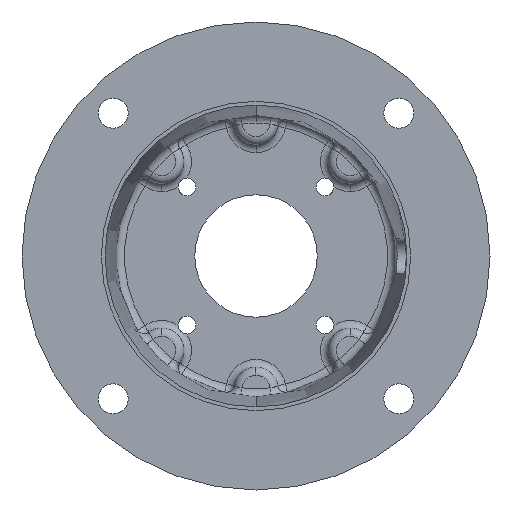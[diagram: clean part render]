
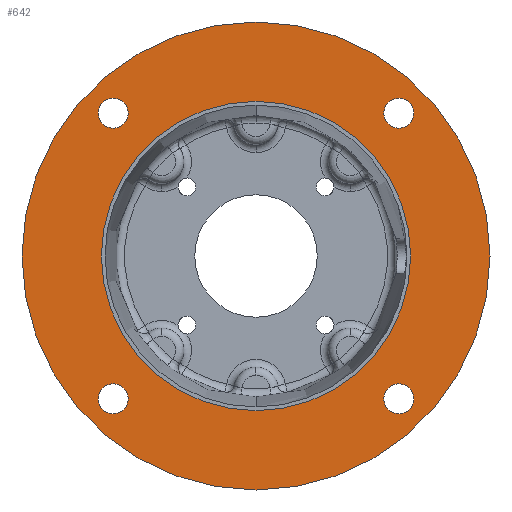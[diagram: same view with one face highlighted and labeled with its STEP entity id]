
A CAD part, front view. The second image highlights one B-rep face of the part: STEP entity #642.
In plain terms, the highlighted planar face has unit normal (0, -1, 0).
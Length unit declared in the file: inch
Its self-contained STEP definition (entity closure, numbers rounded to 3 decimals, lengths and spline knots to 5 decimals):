
#93 = EDGE_CURVE ( 'NONE', #1545, #1622, #1932, .T. ) ;
#562 = ORIENTED_EDGE ( 'NONE', *, *, #563, .T. ) ;
#563 = EDGE_CURVE ( 'NONE', #6667, #6703, #3170, .T. ) ;
#564 = ORIENTED_EDGE ( 'NONE', *, *, #6705, .T. ) ;
#565 = EDGE_LOOP ( 'NONE', ( #567, #626 ) ) ;
#567 = ORIENTED_EDGE ( 'NONE', *, *, #568, .T. ) ;
#568 = EDGE_CURVE ( 'NONE', #6699, #6665, #3222, .T. ) ;
#569 = EDGE_LOOP ( 'NONE', ( #627, #629 ) ) ;
#626 = ORIENTED_EDGE ( 'NONE', *, *, #6716, .T. ) ;
#627 = ORIENTED_EDGE ( 'NONE', *, *, #628, .T. ) ;
#628 = EDGE_CURVE ( 'NONE', #6669, #6719, #3300, .T. ) ;
#629 = ORIENTED_EDGE ( 'NONE', *, *, #6725, .T. ) ;
#630 = EDGE_LOOP ( 'NONE', ( #632, #634 ) ) ;
#632 = ORIENTED_EDGE ( 'NONE', *, *, #633, .T. ) ;
#633 = EDGE_CURVE ( 'NONE', #6686, #6684, #3295, .T. ) ;
#634 = ORIENTED_EDGE ( 'NONE', *, *, #6728, .T. ) ;
#635 = EDGE_LOOP ( 'NONE', ( #636, #637 ) ) ;
#636 = ORIENTED_EDGE ( 'NONE', *, *, #1544, .T. ) ;
#637 = ORIENTED_EDGE ( 'NONE', *, *, #93, .T. ) ;
#642 = ADVANCED_FACE ( 'NONE', ( #3347, #3346, #3345, #3344, #3343, #3342 ), #3351, .F. ) ;
#643 = EDGE_LOOP ( 'NONE', ( #644, #646 ) ) ;
#644 = ORIENTED_EDGE ( 'NONE', *, *, #645, .F. ) ;
#645 = EDGE_CURVE ( 'NONE', #6664, #6655, #3336, .T. ) ;
#646 = ORIENTED_EDGE ( 'NONE', *, *, #6678, .F. ) ;
#647 = EDGE_LOOP ( 'NONE', ( #562, #564 ) ) ;
#1544 = EDGE_CURVE ( 'NONE', #1622, #1545, #5738, .T. ) ;
#1545 = VERTEX_POINT ( 'NONE', #5794 ) ;
#1622 = VERTEX_POINT ( 'NONE', #6007 ) ;
#1932 = CIRCLE ( 'NONE', #1993, 3.405 ) ;
#1990 = DIRECTION ( 'NONE',  ( 0., 0., -1. ) ) ;
#1991 = DIRECTION ( 'NONE',  ( 0., -1., 0. ) ) ;
#1992 = CARTESIAN_POINT ( 'NONE',  ( 0., 0., 0. ) ) ;
#1993 = AXIS2_PLACEMENT_3D ( 'NONE', #1992, #1991, #1990 ) ;
#3170 = CIRCLE ( 'NONE', #3227, 0.21875 ) ;
#3218 = DIRECTION ( 'NONE',  ( 0., 0., 1. ) ) ;
#3219 = DIRECTION ( 'NONE',  ( 0., 1., 0. ) ) ;
#3220 = CARTESIAN_POINT ( 'NONE',  ( -2.07889, 0., -2.07889 ) ) ;
#3221 = AXIS2_PLACEMENT_3D ( 'NONE', #3220, #3219, #3218 ) ;
#3222 = CIRCLE ( 'NONE', #3221, 0.21875 ) ;
#3224 = DIRECTION ( 'NONE',  ( 0., 0., 1. ) ) ;
#3225 = DIRECTION ( 'NONE',  ( 0., 1., 0. ) ) ;
#3226 = CARTESIAN_POINT ( 'NONE',  ( 2.07889, 0., -2.07889 ) ) ;
#3227 = AXIS2_PLACEMENT_3D ( 'NONE', #3226, #3225, #3224 ) ;
#3292 = DIRECTION ( 'NONE',  ( 0., 1., 0. ) ) ;
#3293 = CARTESIAN_POINT ( 'NONE',  ( 2.07889, 0., 2.07889 ) ) ;
#3294 = AXIS2_PLACEMENT_3D ( 'NONE', #3293, #3292, #3355 ) ;
#3295 = CIRCLE ( 'NONE', #3294, 0.21875 ) ;
#3296 = DIRECTION ( 'NONE',  ( 0., 0., 1. ) ) ;
#3297 = DIRECTION ( 'NONE',  ( 0., 1., 0. ) ) ;
#3298 = CARTESIAN_POINT ( 'NONE',  ( -2.07889, 0., 2.07889 ) ) ;
#3299 = AXIS2_PLACEMENT_3D ( 'NONE', #3298, #3297, #3296 ) ;
#3300 = CIRCLE ( 'NONE', #3299, 0.21875 ) ;
#3333 = DIRECTION ( 'NONE',  ( 0., 0., -1. ) ) ;
#3334 = DIRECTION ( 'NONE',  ( 0., -1., 0. ) ) ;
#3335 = AXIS2_PLACEMENT_3D ( 'NONE', #3340, #3334, #3333 ) ;
#3336 = CIRCLE ( 'NONE', #3335, 2.2505 ) ;
#3337 = DIRECTION ( 'NONE',  ( 0., 0., 1. ) ) ;
#3338 = DIRECTION ( 'NONE',  ( 0., 1., 0. ) ) ;
#3339 = CARTESIAN_POINT ( 'NONE',  ( -2.20315, 0., 0. ) ) ;
#3340 = CARTESIAN_POINT ( 'NONE',  ( 0., 0., 0. ) ) ;
#3341 = AXIS2_PLACEMENT_3D ( 'NONE', #3339, #3338, #3337 ) ;
#3342 = FACE_OUTER_BOUND ( 'NONE', #635, .T. ) ;
#3343 = FACE_BOUND ( 'NONE', #630, .T. ) ;
#3344 = FACE_BOUND ( 'NONE', #569, .T. ) ;
#3345 = FACE_BOUND ( 'NONE', #565, .T. ) ;
#3346 = FACE_BOUND ( 'NONE', #647, .T. ) ;
#3347 = FACE_BOUND ( 'NONE', #643, .T. ) ;
#3351 = PLANE ( 'NONE',  #3341 ) ;
#3355 = DIRECTION ( 'NONE',  ( 0., 0., 1. ) ) ;
#5738 = CIRCLE ( 'NONE', #5798, 3.405 ) ;
#5794 = CARTESIAN_POINT ( 'NONE',  ( 0., 0., 3.405 ) ) ;
#5795 = DIRECTION ( 'NONE',  ( 0., 0., -1. ) ) ;
#5796 = DIRECTION ( 'NONE',  ( 0., -1., 0. ) ) ;
#5797 = CARTESIAN_POINT ( 'NONE',  ( 0., 0., 0. ) ) ;
#5798 = AXIS2_PLACEMENT_3D ( 'NONE', #5797, #5796, #5795 ) ;
#6007 = CARTESIAN_POINT ( 'NONE',  ( 0., 0., -3.405 ) ) ;
#6265 = CARTESIAN_POINT ( 'NONE',  ( 0., 0., 0. ) ) ;
#6268 = CARTESIAN_POINT ( 'NONE',  ( -2.07889, 0., 2.29764 ) ) ;
#6269 = CARTESIAN_POINT ( 'NONE',  ( 2.07889, 0., -1.86014 ) ) ;
#6270 = CARTESIAN_POINT ( 'NONE',  ( -2.07889, 0., -2.29764 ) ) ;
#6271 = CARTESIAN_POINT ( 'NONE',  ( 0., 0., -2.2505 ) ) ;
#6278 = CARTESIAN_POINT ( 'NONE',  ( 0., 0., 2.2505 ) ) ;
#6293 = CARTESIAN_POINT ( 'NONE',  ( -2.07889, 0., -1.86014 ) ) ;
#6318 = CARTESIAN_POINT ( 'NONE',  ( 2.07889, 0., 2.29764 ) ) ;
#6320 = CARTESIAN_POINT ( 'NONE',  ( 2.07889, 0., 1.86014 ) ) ;
#6322 = DIRECTION ( 'NONE',  ( 0., 0., -1. ) ) ;
#6323 = DIRECTION ( 'NONE',  ( 0., -1., 0. ) ) ;
#6324 = AXIS2_PLACEMENT_3D ( 'NONE', #6265, #6323, #6322 ) ;
#6325 = CIRCLE ( 'NONE', #6324, 2.2505 ) ;
#6345 = DIRECTION ( 'NONE',  ( 0., 0., 1. ) ) ;
#6346 = DIRECTION ( 'NONE',  ( 0., 1., 0. ) ) ;
#6347 = CARTESIAN_POINT ( 'NONE',  ( 2.07889, 0., -2.07889 ) ) ;
#6348 = AXIS2_PLACEMENT_3D ( 'NONE', #6347, #6346, #6345 ) ;
#6349 = CIRCLE ( 'NONE', #6348, 0.21875 ) ;
#6355 = CARTESIAN_POINT ( 'NONE',  ( 2.07889, 0., -2.29764 ) ) ;
#6363 = CARTESIAN_POINT ( 'NONE',  ( -2.07889, 0., 1.86014 ) ) ;
#6374 = DIRECTION ( 'NONE',  ( 0., 0., 1. ) ) ;
#6375 = DIRECTION ( 'NONE',  ( 0., 1., 0. ) ) ;
#6376 = CARTESIAN_POINT ( 'NONE',  ( -2.07889, 0., -2.07889 ) ) ;
#6377 = AXIS2_PLACEMENT_3D ( 'NONE', #6376, #6375, #6374 ) ;
#6378 = CIRCLE ( 'NONE', #6377, 0.21875 ) ;
#6391 = DIRECTION ( 'NONE',  ( 0., 0., 1. ) ) ;
#6392 = DIRECTION ( 'NONE',  ( 0., 1., 0. ) ) ;
#6393 = CARTESIAN_POINT ( 'NONE',  ( 2.07889, 0., 2.07889 ) ) ;
#6394 = AXIS2_PLACEMENT_3D ( 'NONE', #6393, #6392, #6391 ) ;
#6395 = CIRCLE ( 'NONE', #6394, 0.21875 ) ;
#6404 = DIRECTION ( 'NONE',  ( 0., 0., 1. ) ) ;
#6405 = DIRECTION ( 'NONE',  ( 0., 1., 0. ) ) ;
#6406 = CARTESIAN_POINT ( 'NONE',  ( -2.07889, 0., 2.07889 ) ) ;
#6407 = AXIS2_PLACEMENT_3D ( 'NONE', #6406, #6405, #6404 ) ;
#6408 = CIRCLE ( 'NONE', #6407, 0.21875 ) ;
#6655 = VERTEX_POINT ( 'NONE', #6278 ) ;
#6664 = VERTEX_POINT ( 'NONE', #6271 ) ;
#6665 = VERTEX_POINT ( 'NONE', #6270 ) ;
#6667 = VERTEX_POINT ( 'NONE', #6269 ) ;
#6669 = VERTEX_POINT ( 'NONE', #6268 ) ;
#6678 = EDGE_CURVE ( 'NONE', #6655, #6664, #6325, .T. ) ;
#6684 = VERTEX_POINT ( 'NONE', #6320 ) ;
#6686 = VERTEX_POINT ( 'NONE', #6318 ) ;
#6699 = VERTEX_POINT ( 'NONE', #6293 ) ;
#6703 = VERTEX_POINT ( 'NONE', #6355 ) ;
#6705 = EDGE_CURVE ( 'NONE', #6703, #6667, #6349, .T. ) ;
#6716 = EDGE_CURVE ( 'NONE', #6665, #6699, #6378, .T. ) ;
#6719 = VERTEX_POINT ( 'NONE', #6363 ) ;
#6725 = EDGE_CURVE ( 'NONE', #6719, #6669, #6408, .T. ) ;
#6728 = EDGE_CURVE ( 'NONE', #6684, #6686, #6395, .T. ) ;
